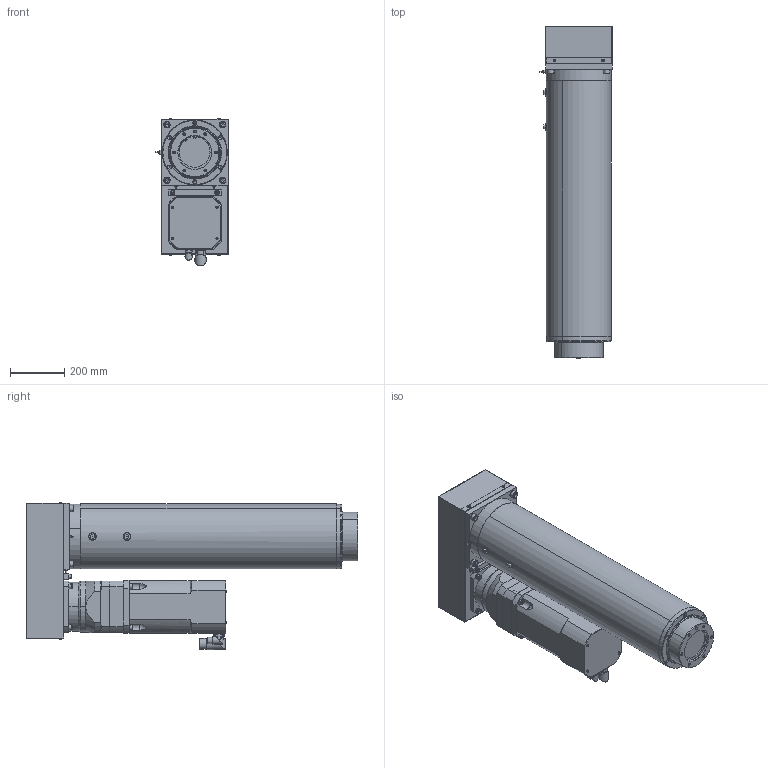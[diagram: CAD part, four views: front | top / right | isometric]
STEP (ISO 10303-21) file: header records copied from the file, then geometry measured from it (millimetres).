
FILE_DESCRIPTION (( 'STEP AP203' ), '1' );
FILE_NAME ('LN5P2000-055-010HG.STEP', '2018-01-30T14:10:57', ( '' ), ( '' ), 'SwSTEP 2.0', 'SolidWorks 2016', '' );
FILE_SCHEMA (( 'CONFIG_CONTROL_DESIGN' ));
Length unit declared in the file: millimetre
Products named in the file (1): LN5P2000-055-010HG
Bounding box: 267.25 x 1226.5 x 546.75 mm (x, y, z)
Surface area: 4292432.7 mm2 (no closed solid volume)
Topology: 0 solids, 49 shells, 1615 faces, 3770 edges, 2276 vertices
Faces by surface type: plane 683, cylinder 602, cone 258, torus 62, bspline 10
Entity records: 46939 total; most frequent: CARTESIAN_POINT 9748, DIRECTION 8213, ORIENTED_EDGE 7212, EDGE_CURVE 3612, AXIS2_PLACEMENT_3D 3145, VERTEX_POINT 2276, EDGE_LOOP 1932, LINE 1923
